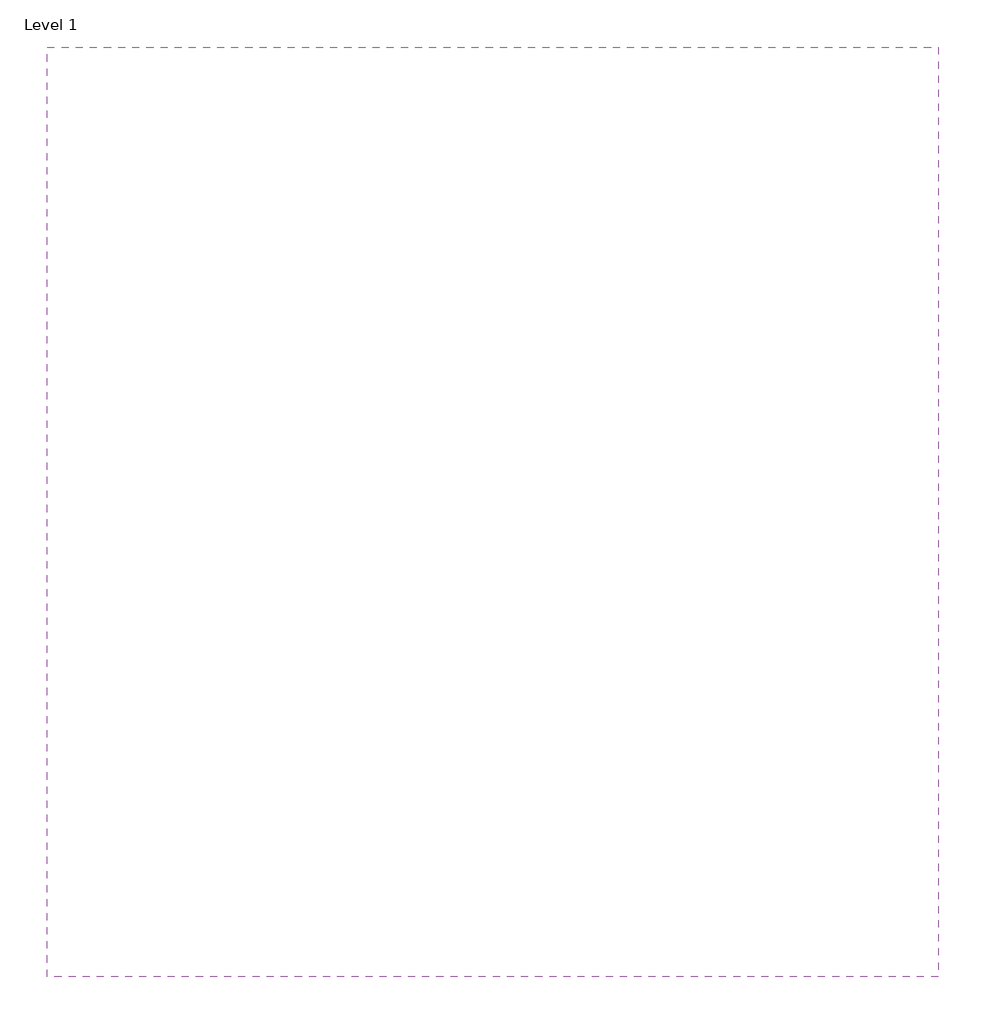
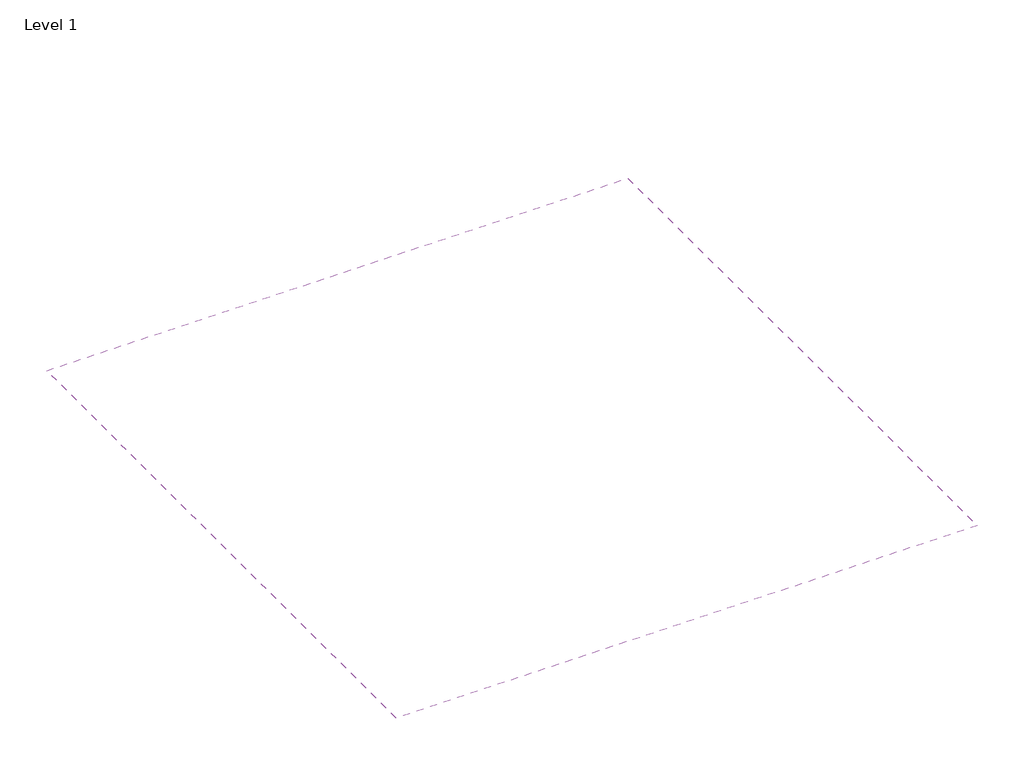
# One storey: 1 covering.
"""IFC4 building model written with IfcOpenShell, lengths in millimetres."""

import ifcopenshell
import ifcopenshell.guid

model = None  # the IFC model being written
_history = None  # IfcOwnerHistory: only IFC2X3 demands one
_inside = {}  # id of a spatial element -> (the spatial element, [elements in it])
_under = {}  # id of a project, library or spatial element -> (it, [spatial elements below it])
_declared = {}  # id of a project -> (the project, [libraries it declares])
_typed = {}  # id of a type object -> (the type object, [elements of that type])
_made_of = {}  # id of a material, layer set ... -> (it, [elements and type objects made of it])


def new_model(schema):
    """Start an empty IFC model of exactly this schema.

    Asked for "IFC4X3", IfcOpenShell would pick the latest addendum, in which some entities
    have other attributes; the version numbers below select the first issue.
    IFC2X3 requires an IfcOwnerHistory on every rooted entity: one is made here for all.
    """
    global model, _history
    if schema == "IFC4X3":
        model = ifcopenshell.file(schema_version=(4, 3, 0, 0))
    else:
        model = ifcopenshell.file(schema=schema)
    _inside.clear()
    _under.clear()
    _declared.clear()
    _typed.clear()
    _made_of.clear()
    _history = None
    if model.schema == "IFC2X3":
        org = make("IfcOrganization", Name="unknown")
        user = make(
            "IfcPersonAndOrganization",
            ThePerson=make("IfcPerson", FamilyName="unknown"),
            TheOrganization=org,
        )
        app = make(
            "IfcApplication",
            ApplicationDeveloper=org,
            Version="unknown",
            ApplicationFullName="unknown",
            ApplicationIdentifier="unknown",
        )
        _history = make(
            "IfcOwnerHistory",
            OwningUser=user,
            OwningApplication=app,
            ChangeAction="ADDED",
            CreationDate=0,
        )
    return model


def make(cls, **values):
    """One entity of the class cls with the attributes given. An attribute that is None is left unset."""
    return model.create_entity(
        cls, **{name: value for name, value in values.items() if value is not None}
    )


def rooted(cls, **values):
    """An entity with a GlobalId (a new one), such as an element, a storey or a relation."""
    return make(cls, GlobalId=ifcopenshell.guid.new(), OwnerHistory=_history, **values)


def si_unit(unit_type, name, prefix=None):
    """IfcSIUnit, for example si_unit("LENGTHUNIT", "METRE", prefix="MILLI")."""
    return make("IfcSIUnit", UnitType=unit_type, Prefix=prefix, Name=name)


def assignment(units):
    """IfcUnitAssignment: the units of a project."""
    return None if units is None else make("IfcUnitAssignment", Units=units)


def point(xyz):
    """IfcCartesianPoint."""
    return None if xyz is None else make("IfcCartesianPoint", Coordinates=xyz)


def direction(xyz):
    """IfcDirection."""
    return None if xyz is None else make("IfcDirection", DirectionRatios=xyz)


def frame(location, z_axis=None, x_axis=None):
    """IfcAxis2Placement3D, a coordinate frame: its origin and axes. An axis left out is left unset."""
    return make(
        "IfcAxis2Placement3D",
        Location=point(location),
        Axis=direction(z_axis),
        RefDirection=direction(x_axis),
    )


def origin():
    """The frame at (0, 0, 0) with its axes left unset."""
    return frame((0.0, 0.0, 0.0))


def place(relative_to, where):
    """IfcLocalPlacement: puts the frame where relative to a parent placement (None: the world)."""
    return make(
        "IfcLocalPlacement", PlacementRelTo=relative_to, RelativePlacement=where
    )


def context(
    kind, dimensions, precision=None, world=None, true_north=None, identifier=None
):
    """IfcGeometricRepresentationContext, for example the 3D "Model" context."""
    return make(
        "IfcGeometricRepresentationContext",
        ContextIdentifier=identifier,
        ContextType=kind,
        CoordinateSpaceDimension=dimensions,
        Precision=precision,
        WorldCoordinateSystem=world,
        TrueNorth=true_north,
    )


def project(units=None, contexts=None):
    """IfcProject with its units and contexts."""
    return rooted(
        "IfcProject",
        Name="project",
        RepresentationContexts=contexts,
        UnitsInContext=assignment(units),
    )


def spatial(cls, under=None, at=None, **own):
    """A site, building, storey or space (cls), placed at a placement, below another one or the project."""
    s = rooted(cls, ObjectPlacement=at, **own)
    if under is not None:
        _under.setdefault(under.id(), (under, []))[1].append(s)
    return s


def polyline(points):
    """IfcPolyline through the points."""
    return make("IfcPolyline", Points=[point(p) for p in points])


def outline(outer, holes=None, kind="AREA"):
    """IfcArbitraryClosedProfileDef: a profile drawn as a closed curve; with holes, ...WithVoids."""
    if holes is None:
        return make("IfcArbitraryClosedProfileDef", ProfileType=kind, OuterCurve=outer)
    return make(
        "IfcArbitraryProfileDefWithVoids",
        ProfileType=kind,
        OuterCurve=outer,
        InnerCurves=holes,
    )


def extrude(swept, where, along, depth):
    """IfcExtrudedAreaSolid: the profile swept, set in the frame where, extruded along a direction by depth."""
    return make(
        "IfcExtrudedAreaSolid",
        SweptArea=swept,
        Position=where,
        ExtrudedDirection=direction(along),
        Depth=depth,
    )


def shape(context_of_items, identifier, shape_type, items):
    """IfcShapeRepresentation: the items that make up one representation, for example the "Body"."""
    return make(
        "IfcShapeRepresentation",
        ContextOfItems=context_of_items,
        RepresentationIdentifier=identifier,
        RepresentationType=shape_type,
        Items=items,
    )


def made_of(thing, what):
    """Note that an element or type object is made of a material, layer set ...; save() writes the relation."""
    if what is not None:
        _made_of.setdefault(what.id(), (what, []))[1].append(thing)
    return thing


def element(
    cls,
    number,
    at=None,
    inside=None,
    cuts=None,
    type_object=None,
    material=None,
    context=None,
    identifier="Body",
    shape_type=None,
    held_by="IfcProductDefinitionShape",
    body=None,
    shapes=None,
    **own,
):
    """One element of the class cls, such as IfcWall. Its Tag is "e" and its number.

    at: its placement. inside: the storey or other place that contains it. cuts: it is an
    opening in that element (IfcRelVoidsElement). A single representation is given by context,
    identifier, shape_type and body (its items); several are given by shapes. held_by: the class
    of the entity that holds the representations. save() writes the other relations.
    """
    e = rooted(cls, Tag="e%d" % number, ObjectPlacement=at, **own)
    if body is not None:
        shapes = [shape(context, identifier, shape_type, body)]
    if shapes is not None:
        e.Representation = make(held_by, Representations=shapes)
    if inside is not None:
        _inside.setdefault(inside.id(), (inside, []))[1].append(e)
    if cuts is not None:
        rooted(
            "IfcRelVoidsElement", RelatingBuildingElement=cuts, RelatedOpeningElement=e
        )
    if type_object is not None:
        _typed.setdefault(type_object.id(), (type_object, []))[1].append(e)
    return made_of(e, material)


def aggregate(whole, parts):
    """IfcRelAggregates: a whole, such as a stair, and the parts it consists of."""
    return rooted("IfcRelAggregates", RelatingObject=whole, RelatedObjects=parts)


def save(model, path):
    """Write the relations noted so far, then the file.

    IfcRelAggregates (storeys below a building ...), IfcRelContainedInSpatialStructure (elements
    in a storey), IfcRelDefinesByType, IfcRelAssociatesMaterial and IfcRelDeclares: one each for
    every whole, place, type object, material and project.
    """
    for whole, parts in _under.values():
        aggregate(whole, parts)
    for where, things in _inside.values():
        rooted(
            "IfcRelContainedInSpatialStructure",
            RelatedElements=things,
            RelatingStructure=where,
        )
    for kind, things in _typed.values():
        rooted("IfcRelDefinesByType", RelatedObjects=things, RelatingType=kind)
    for what, things in _made_of.values():
        rooted("IfcRelAssociatesMaterial", RelatedObjects=things, RelatingMaterial=what)
    for by, libraries in _declared.values():
        rooted("IfcRelDeclares", RelatingContext=by, RelatedDefinitions=libraries)
    model.write(path)


model = new_model("IFC4")

# Units and contexts
model_context = context("Model", 3, world=origin())
ifc_project = project(units=[si_unit("LENGTHUNIT", "METRE", prefix="MILLI")], contexts=[model_context])

# Site, building, storey
site = spatial("IfcSite", under=ifc_project)
building = spatial("IfcBuilding", under=site)
storey = spatial("IfcBuildingStorey", under=building, Name="Level 1", Elevation=0.0)

# Covering
placement = place(None, origin())
element("IfcCovering", 1, ObjectType="Placo PPH 13", at=placement, inside=storey, context=model_context, shape_type="SweptSolid", body=[
    extrude(outline(polyline([(-5115.2715037, -22821.5255078), (-6055.2715037, -22821.5255078), (-6055.2715037, -21841.5255078), (-5115.2715037, -21841.5255078), (-5115.2715037, -22821.5255078)])), frame((0.0, 0.0, 2600.0), z_axis=(0.0, 0.0, 1.0), x_axis=(1.0, 0.0, 0.0)), (0.0, 0.0, 1.0), 225.0),
])

save(model, "model.ifc")
